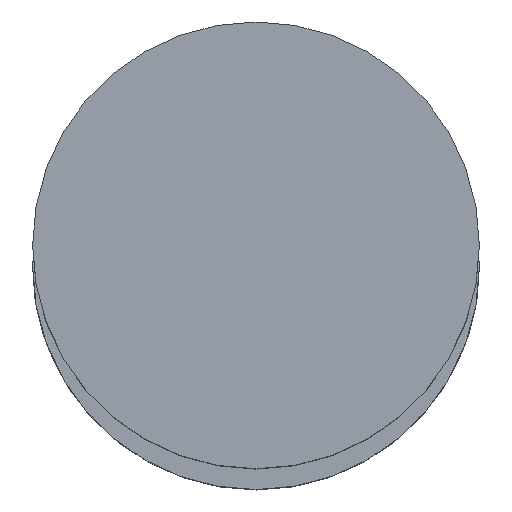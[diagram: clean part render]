
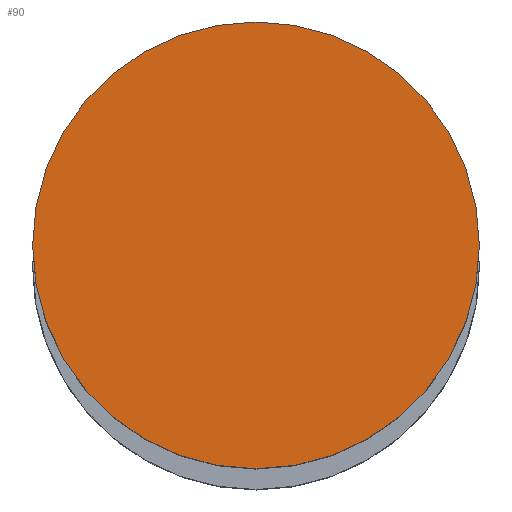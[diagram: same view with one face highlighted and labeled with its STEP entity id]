
A CAD part, top view. The second image highlights one B-rep face of the part: STEP entity #90.
In plain terms, the highlighted planar face has unit normal (0, 0, 1).
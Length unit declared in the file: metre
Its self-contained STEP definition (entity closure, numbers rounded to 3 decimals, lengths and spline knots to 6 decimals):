
#90=ADVANCED_FACE('25:217',(#177),#178,.T.);
#177=FACE_OUTER_BOUND('',#264,.T.);
#178=PLANE('',#265);
#264=EDGE_LOOP('',(#412,#413));
#265=AXIS2_PLACEMENT_3D('',#414,#415,#416);
#412=ORIENTED_EDGE('',*,*,#545,.F.);
#413=ORIENTED_EDGE('',*,*,#538,.F.);
#414=CARTESIAN_POINT('',(0.0,0.0,3.494));
#415=DIRECTION('',(0.0,0.0,1.0));
#416=DIRECTION('',(1.0,0.0,0.0));
#538=EDGE_CURVE('',#649,#651,#652,.F.);
#545=EDGE_CURVE('',#651,#649,#660,.F.);
#649=VERTEX_POINT('',#786);
#651=VERTEX_POINT('',#789);
#652=CIRCLE('',#790,0.0155);
#660=CIRCLE('',#799,0.0155);
#786=CARTESIAN_POINT('',(0.015408,0.000095,3.494));
#789=CARTESIAN_POINT('',(-0.015592,0.000095,3.494));
#790=AXIS2_PLACEMENT_3D('',#906,#907,#908);
#799=AXIS2_PLACEMENT_3D('',#919,#920,#921);
#906=CARTESIAN_POINT('',(-0.000092,0.000095,3.494));
#907=DIRECTION('',(0.0,0.0,1.0));
#908=DIRECTION('',(1.0,0.0,0.0));
#919=CARTESIAN_POINT('',(-0.000092,0.000095,3.494));
#920=DIRECTION('',(0.0,0.0,1.0));
#921=DIRECTION('',(1.0,0.0,0.0));
